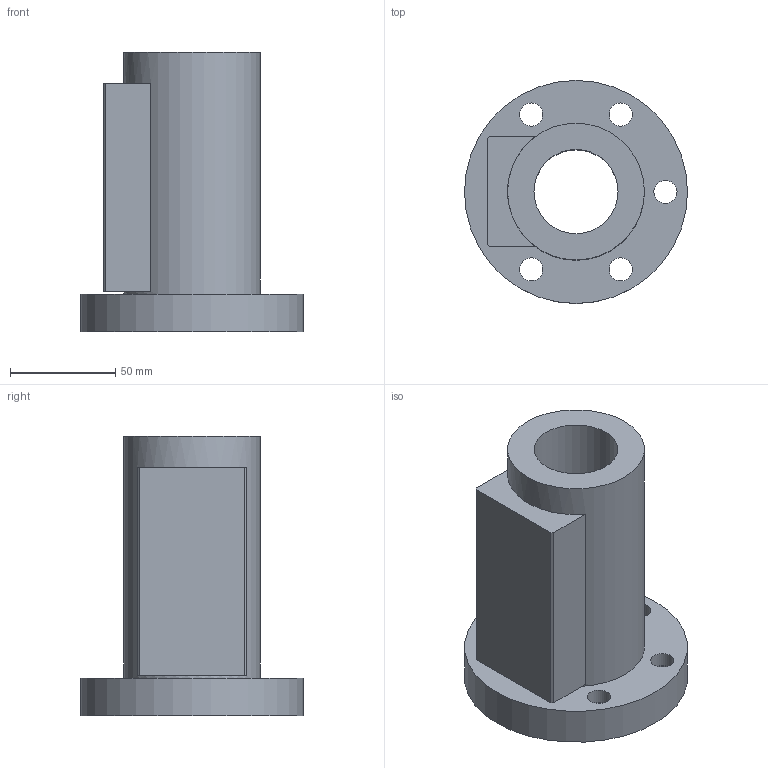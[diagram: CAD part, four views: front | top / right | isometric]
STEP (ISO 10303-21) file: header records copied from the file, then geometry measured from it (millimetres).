
FILE_DESCRIPTION(/* description */ (''),/* implementation_level */ '2;1');
FILE_NAME(/* name */ '40-40A1',/* time_stamp */ '2006-07-31T11:52:06+08:00',/* author */ (''),/* organization */ (''),/* preprocessor_version */ 'ST-DEVELOPER v9',/* originating_system */ 'UGS - NX 4.0',/* authorisation */ '');
FILE_SCHEMA (('CONFIG_CONTROL_DESIGN'));
Length unit declared in the file: millimetre
Products named in the file (1): 40-40A1
Bounding box: 106 x 106 x 133 mm (x, y, z)
Volume: 425720.5 mm3; surface area: 69523 mm2
Topology: 1 solids, 1 shells, 28 faces, 61 edges, 42 vertices
Faces by surface type: plane 15, cylinder 13
Full cylindrical faces by diameter (mm): 11 x5, 17.5 x5, 40 x1, 65 x1, 106 x1
Entity records: 794 total; most frequent: DIRECTION 130, CARTESIAN_POINT 111, ORIENTED_EDGE 88, EDGE_LOOP 60, AXIS2_PLACEMENT_3D 57, FACE_BOUND 45, EDGE_CURVE 44, VERTEX_POINT 38
